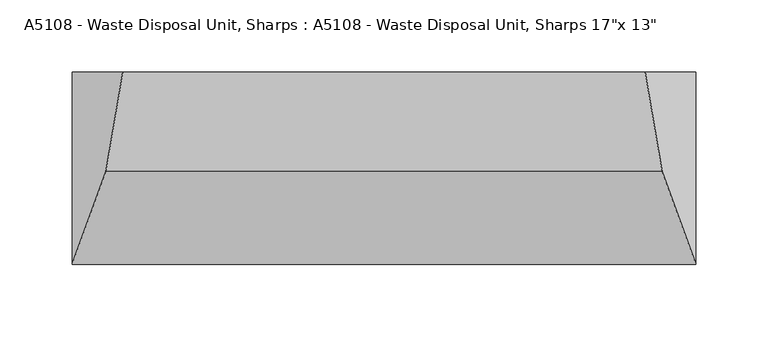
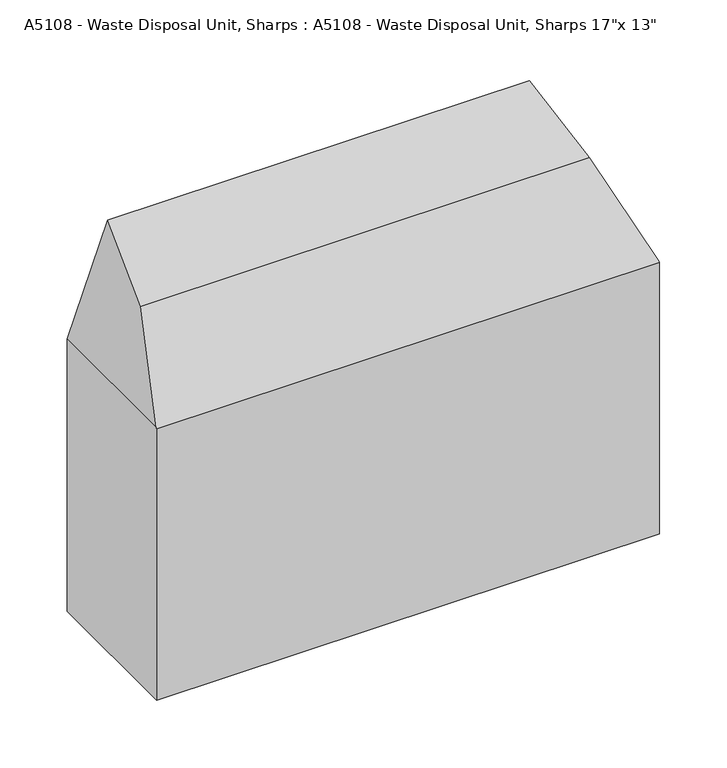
"""IFC4 building model written with IfcOpenShell, lengths in millimetres: proxy geometry."""

from ifc_helpers import new_model, si_unit, origin, place, context, project, spatial, faceted_brep, source, transform, mapped, element, save


def proxy_06bba5ea(model_context):
    return source(origin(), model_context, "Body", "Brep", [
        faceted_brep([(215.9, 0.0, 0.0), (-215.9, 0.0, 0.0), (-215.9, 133.35, 0.0), (215.9, 133.35, 0.0), (215.9, 133.35, 247.1895004), (215.9, 0.7823585, 247.1895004), (215.9, 0.0, 246.4071418), (-215.9, 133.35, 247.1895004), (-181.064227, 133.35, 342.9), (181.064227, 133.35, 342.9), (-215.9, 0.0, 246.4071418), (-215.9, 0.7823585, 247.1895004), (192.7853467, 64.2893466, 310.6964885), (-192.7853467, 64.2893466, 310.6964885)], [[[0, 1, 2, 3]], [[0, 3, 4, 5, 6]], [[3, 2, 7, 8, 9, 4]], [[2, 1, 10, 11, 7]], [[1, 0, 6, 10]], [[10, 6, 5, 12, 13, 11]], [[12, 9, 8, 13]], [[5, 4, 9, 12]], [[8, 7, 11, 13]]]),
    ])


if __name__ == "__main__":
    model = new_model("IFC4")
    model_context = context("Model", 3, world=origin())
    ifc_project = project(units=[si_unit("LENGTHUNIT", "METRE", prefix="MILLI")], contexts=[model_context])
    site = spatial("IfcSite", under=ifc_project)
    building = spatial("IfcBuilding", under=site)
    placement = place(None, origin())
    proxy_shape = proxy_06bba5ea(model_context)
    element("IfcBuildingElementProxy", 1, Name="A5108 - Waste Disposal Unit, Sharps : A5108 - Waste Disposal Unit, Sharps 17\"x 13\"", ObjectType="A5108 - Waste Disposal Unit, Sharps : A5108 - Waste Disposal Unit, Sharps 17\"x 13\"", at=placement, inside=building, context=model_context, shape_type="MappedRepresentation", body=[
        mapped(proxy_shape, transform((0.0, 0.0, 0.0), x_axis=(1.0, 0.0, 0.0), y_axis=(0.0, 1.0, 0.0), z_axis=(0.0, 0.0, 1.0))),
    ])
    save(model, "model.ifc")
